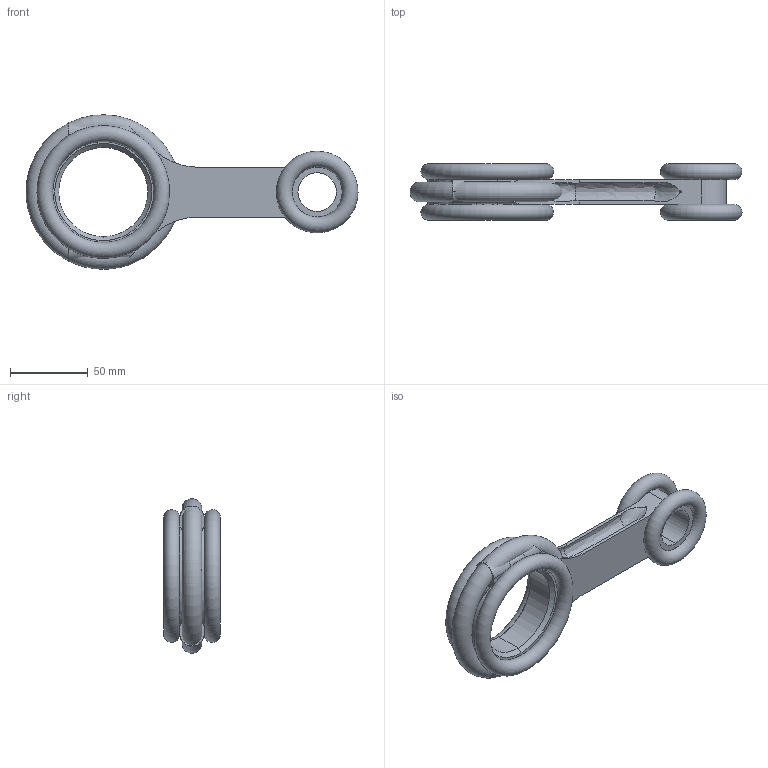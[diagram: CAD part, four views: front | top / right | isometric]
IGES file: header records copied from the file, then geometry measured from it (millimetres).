
Start section: 3D InterOp IGES (v. 2017 1.0.1), Spatial Corp. Copyright (c) 1999-2016.
Global section: file name: Connecting rod.igs; native system: Spatial Corp.; preprocessor: 3D InterOp ACIS/IGES; author: Noname; organization: Noname; date: 20230426.195417; units: millimetre
Bounding box: 212.85 x 36.2 x 98.98 mm (x, y, z)
Volume: 248210.1 mm3; surface area: 85063.3 mm2
Topology: 1 solids, 1 shells, 61 faces, 177 edges, 110 vertices
Faces by surface type: cylinder 25, plane 12, bspline 8, torus 8, extrusion 4, cone 4
